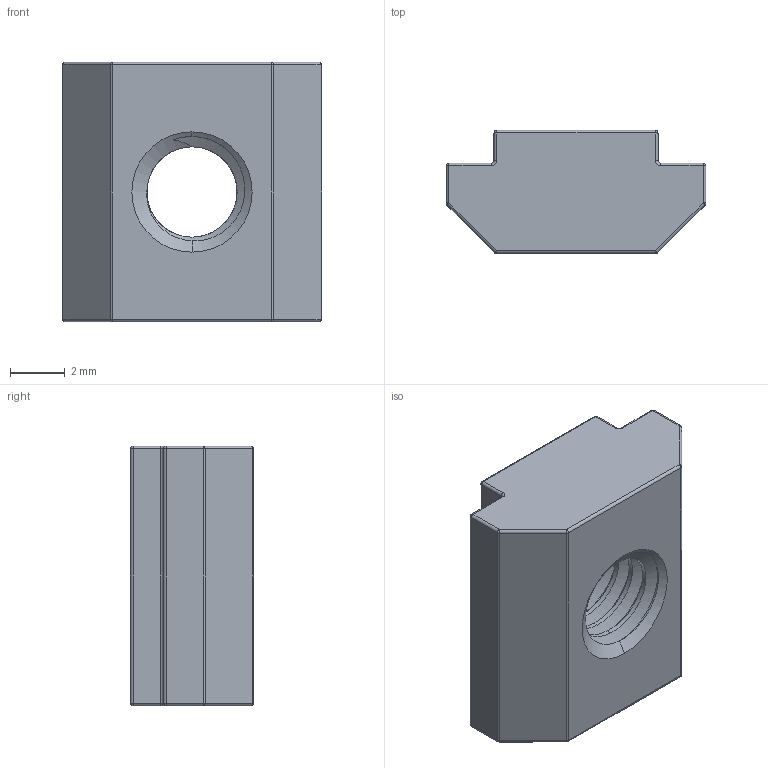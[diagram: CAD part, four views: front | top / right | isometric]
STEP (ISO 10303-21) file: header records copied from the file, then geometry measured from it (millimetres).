
FILE_DESCRIPTION (( 'STEP AP203' ), '1' );
FILE_NAME ('TANLN-AL-20-M4.STEP', '2026-08-25T07:29:15', ( '' ), ( '' ), 'SwSTEP 2.0', 'SolidWorks 2020', '' );
FILE_SCHEMA (( 'CONFIG_CONTROL_DESIGN' ));
Length unit declared in the file: millimetre
Products named in the file (1): TANLN-AL-20-M4
Bounding box: 9.5 x 4.5 x 9.5 mm (x, y, z)
Volume: 287 mm3; surface area: 367.6 mm2
Topology: 1 solids, 1 shells, 81 faces, 192 edges, 101 vertices
Faces by surface type: cylinder 42, sphere 16, plane 12, cone 4, torus 4, bspline 3
Entity records: 4192 total; most frequent: CARTESIAN_POINT 2382, DIRECTION 373, ORIENTED_EDGE 360, EDGE_CURVE 180, AXIS2_PLACEMENT_3D 149, VERTEX_POINT 101, EDGE_LOOP 83, ADVANCED_FACE 81
